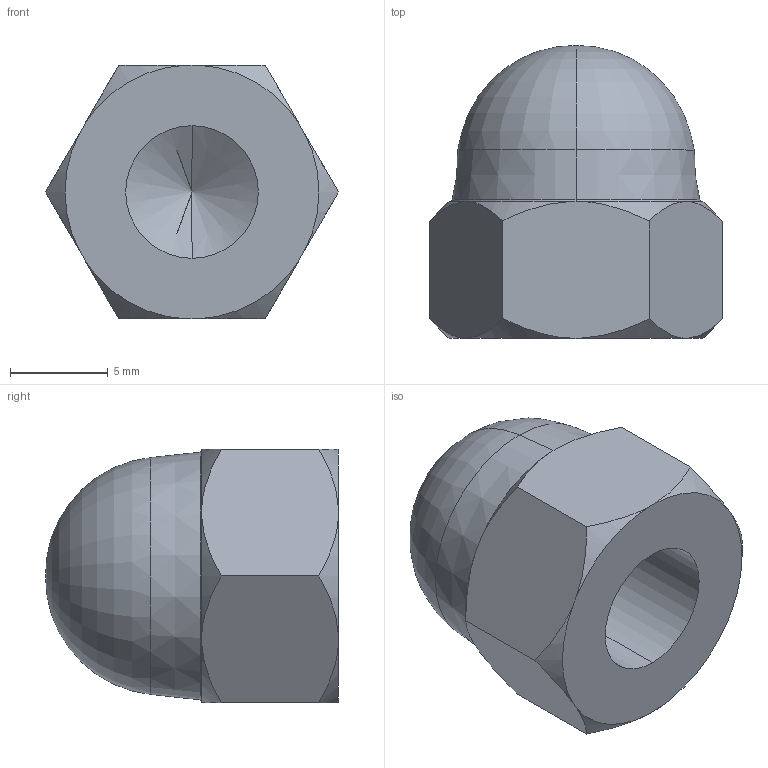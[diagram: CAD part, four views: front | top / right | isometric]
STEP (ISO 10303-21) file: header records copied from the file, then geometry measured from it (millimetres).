
FILE_DESCRIPTION (( 'STEP AP203' ), '1' );
FILE_NAME ('SAGOTOOL.P.TAN_BAU_M8.STEP', '2026-07-09T03:09:27', ( '' ), ( '' ), 'SwSTEP 2.0', 'SolidWorks 2020', '' );
FILE_SCHEMA (( 'CONFIG_CONTROL_DESIGN' ));
Length unit declared in the file: millimetre
Products named in the file (1): SAGOTOOL.P.TAN_BAU_M8
Bounding box: 15.01 x 15 x 13 mm (x, y, z)
Volume: 1307.7 mm3; surface area: 1012.7 mm2
Topology: 1 solids, 1 shells, 31 faces, 78 edges, 49 vertices
Faces by surface type: cone 16, plane 9, torus 4, cylinder 2
Entity records: 1139 total; most frequent: CARTESIAN_POINT 349, ORIENTED_EDGE 152, DIRECTION 144, EDGE_CURVE 76, AXIS2_PLACEMENT_3D 60, VERTEX_POINT 49, EDGE_LOOP 33, FACE_OUTER_BOUND 31
